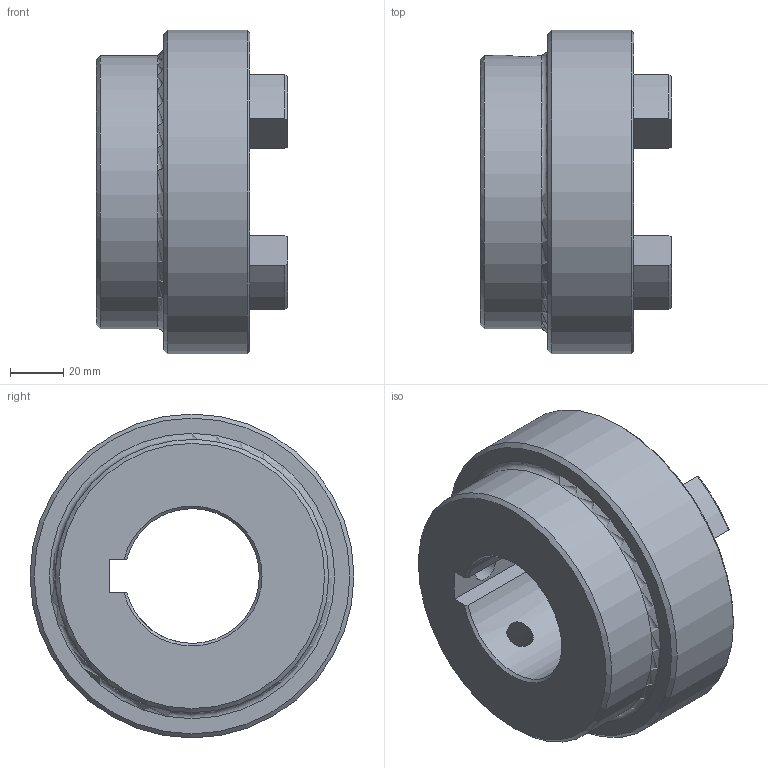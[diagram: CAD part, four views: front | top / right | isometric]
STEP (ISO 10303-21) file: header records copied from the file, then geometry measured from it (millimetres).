
FILE_DESCRIPTION (( 'STEP AP203' ), '1' );
FILE_NAME ('RC5.step', '2024-07-25T13:38:21', ( 'Adlan' ), ( '' ), 'SwSTEP 2.0', 'SolidWorks 2013', '' );
FILE_SCHEMA (( 'CONFIG_CONTROL_DESIGN' ));
Length unit declared in the file: inch
Products named in the file (1): RC5
Bounding box: 72.14 x 122.17 x 122.17 mm (x, y, z)
Volume: 388660.5 mm3; surface area: 59746.3 mm2
Topology: 1 solids, 1 shells, 85 faces, 224 edges, 141 vertices
Faces by surface type: cylinder 33, plane 21, torus 17, cone 14
Full cylindrical faces by diameter (mm): 10.716 x2, 103.124 x1, 122.174 x1
Entity records: 2893 total; most frequent: CARTESIAN_POINT 742, DIRECTION 456, ORIENTED_EDGE 416, EDGE_CURVE 208, AXIS2_PLACEMENT_3D 183, VERTEX_POINT 135, EDGE_LOOP 101, CIRCLE 97
